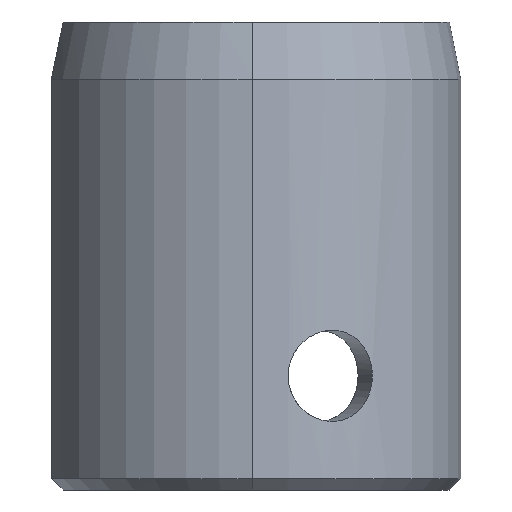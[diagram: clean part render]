
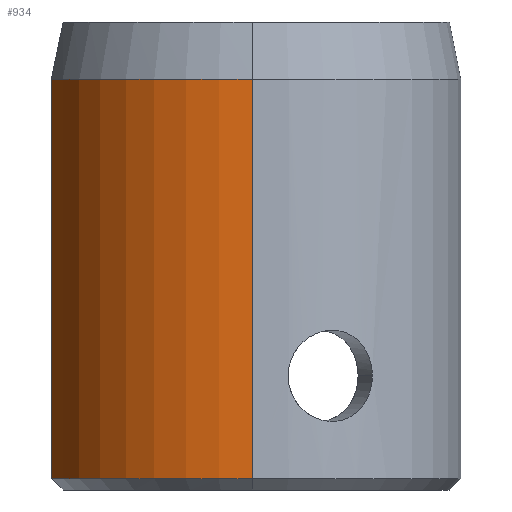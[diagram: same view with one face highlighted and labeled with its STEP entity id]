
A CAD part, left-side view. The second image highlights one B-rep face of the part: STEP entity #934.
In plain terms, the highlighted cylindrical face has radius 18.255 mm (diameter 36.51 mm), a partial arc.
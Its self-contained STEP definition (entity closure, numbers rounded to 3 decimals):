
#4 = DIRECTION ( 'NONE',  ( 0., 0., -1. ) ) ;
#9 = CARTESIAN_POINT ( 'NONE',  ( -4.763, 17.623, 20.5 ) ) ;
#75 = DIRECTION ( 'NONE',  ( 0., 0., -1. ) ) ;
#76 = CARTESIAN_POINT ( 'NONE',  ( -18.255, 0., 20.5 ) ) ;
#83 = DIRECTION ( 'NONE',  ( 0., 0., -1. ) ) ;
#84 = CARTESIAN_POINT ( 'NONE',  ( 0., 0., 15.5 ) ) ;
#97 = DIRECTION ( 'NONE',  ( 1., 0., 0. ) ) ;
#119 = EDGE_LOOP ( 'NONE', ( #874, #893, #872, #865 ) ) ;
#216 = FACE_OUTER_BOUND ( 'NONE', #119, .T. ) ;
#266 = EDGE_CURVE ( 'NONE', #802, #775, #746, .T. ) ;
#269 = EDGE_CURVE ( 'NONE', #802, #800, #749, .T. ) ;
#272 = EDGE_CURVE ( 'NONE', #800, #909, #742, .T. ) ;
#304 = EDGE_CURVE ( 'NONE', #909, #775, #1062, .T. ) ;
#362 = AXIS2_PLACEMENT_3D ( 'NONE', #84, #83, #97 ) ;
#374 = AXIS2_PLACEMENT_3D ( 'NONE', #469, #470, #471 ) ;
#400 = AXIS2_PLACEMENT_3D ( 'NONE', #675, #673, #672 ) ;
#469 = CARTESIAN_POINT ( 'NONE',  ( 0., 0., -19.5 ) ) ;
#470 = DIRECTION ( 'NONE',  ( 0., 0., 1. ) ) ;
#471 = DIRECTION ( 'NONE',  ( 1., 0., 0. ) ) ;
#548 = CARTESIAN_POINT ( 'NONE',  ( -18.255, 0., -19.5 ) ) ;
#590 = CARTESIAN_POINT ( 'NONE',  ( -18.255, 0., 15.5 ) ) ;
#603 = CARTESIAN_POINT ( 'NONE',  ( -4.763, 17.623, 15.5 ) ) ;
#624 = CARTESIAN_POINT ( 'NONE',  ( -4.763, 17.623, -19.5 ) ) ;
#672 = DIRECTION ( 'NONE',  ( -1., 0., 0. ) ) ;
#673 = DIRECTION ( 'NONE',  ( 0., 0., -1. ) ) ;
#675 = CARTESIAN_POINT ( 'NONE',  ( 0., 0., 20.5 ) ) ;
#740 = VECTOR ( 'NONE', #75, 1000. ) ;
#742 = LINE ( 'NONE', #9, #740 ) ;
#743 = VECTOR ( 'NONE', #4, 1000. ) ;
#746 = LINE ( 'NONE', #76, #743 ) ;
#749 = CIRCLE ( 'NONE', #362, 18.255 ) ;
#775 = VERTEX_POINT ( 'NONE', #548 ) ;
#800 = VERTEX_POINT ( 'NONE', #603 ) ;
#802 = VERTEX_POINT ( 'NONE', #590 ) ;
#865 = ORIENTED_EDGE ( 'NONE', *, *, #304, .T. ) ;
#872 = ORIENTED_EDGE ( 'NONE', *, *, #272, .T. ) ;
#874 = ORIENTED_EDGE ( 'NONE', *, *, #266, .F. ) ;
#893 = ORIENTED_EDGE ( 'NONE', *, *, #269, .T. ) ;
#909 = VERTEX_POINT ( 'NONE', #624 ) ;
#934 = ADVANCED_FACE ( 'NONE', ( #216 ), #1049, .T. ) ;
#1049 = CYLINDRICAL_SURFACE ( 'NONE', #400, 18.255 ) ;
#1062 = CIRCLE ( 'NONE', #374, 18.255 ) ;
